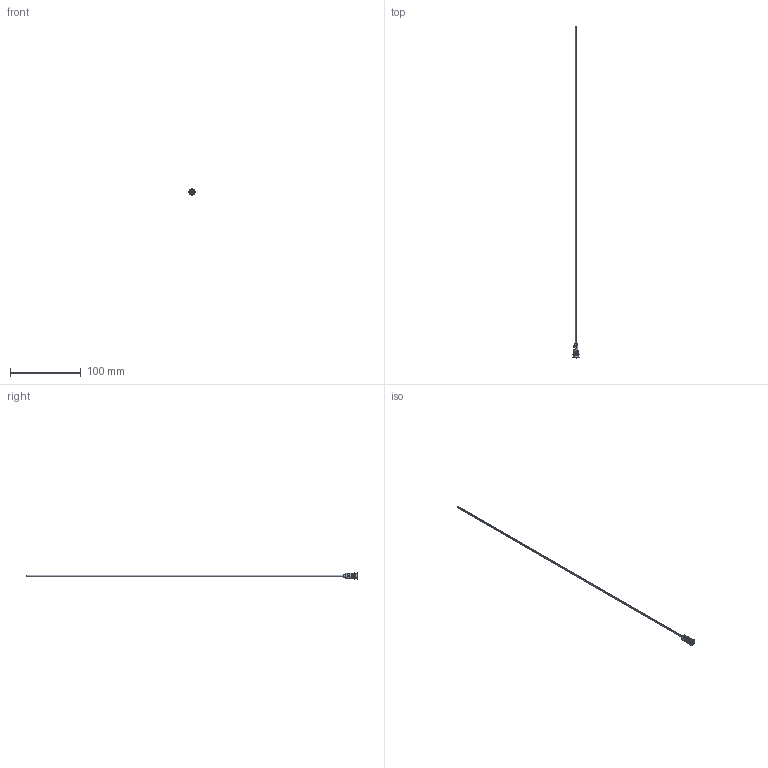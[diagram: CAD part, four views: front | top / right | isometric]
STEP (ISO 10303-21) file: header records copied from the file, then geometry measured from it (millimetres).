
FILE_DESCRIPTION (( 'STEP AP203' ), '1' );
FILE_NAME ('RF-8Fx450-2.STEP', '2015-11-25T08:46:15', ( 'Balzi' ), ( '' ), 'SwSTEP 2.0', 'SolidWorks 2015', '' );
FILE_SCHEMA (( 'CONFIG_CONTROL_DESIGN' ));
Length unit declared in the file: millimetre
Products named in the file (1): RF-8Fx450-2
Bounding box: 9 x 468 x 9 mm (x, y, z)
Volume: 1277 mm3; surface area: 5760.1 mm2
Topology: 1 solids, 1 shells, 77 faces, 176 edges, 108 vertices
Faces by surface type: cylinder 28, plane 25, torus 12, cone 12
Entity records: 2268 total; most frequent: DIRECTION 419, CARTESIAN_POINT 381, ORIENTED_EDGE 352, EDGE_CURVE 176, AXIS2_PLACEMENT_3D 170, VERTEX_POINT 108, CIRCLE 92, EDGE_LOOP 86
